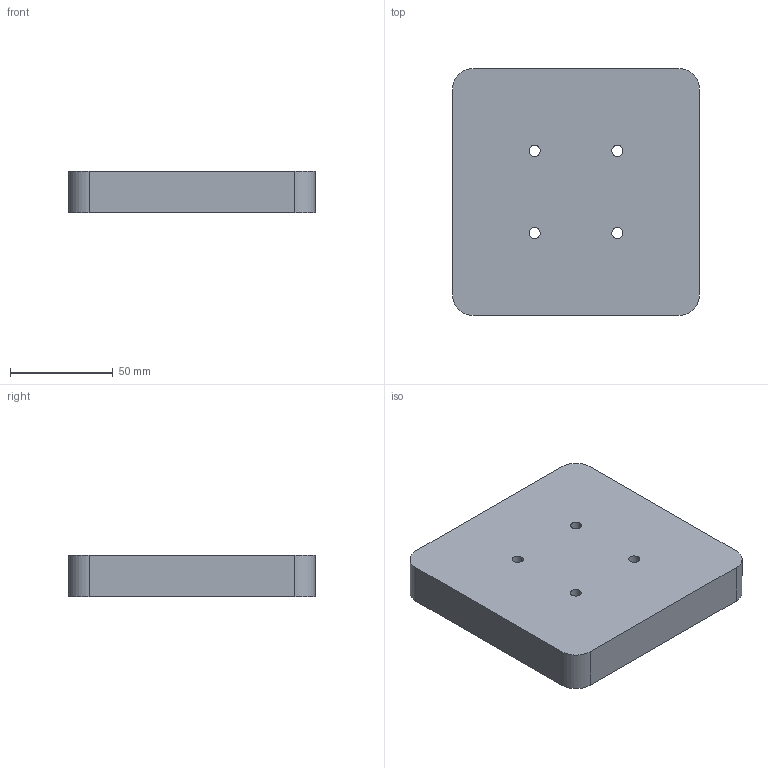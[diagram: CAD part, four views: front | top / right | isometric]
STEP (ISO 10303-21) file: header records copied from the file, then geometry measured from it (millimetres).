
FILE_DESCRIPTION (( 'STEP AP203' ), '1' );
FILE_NAME ('PlantCarriageTop.step', '2026-08-22T11:38:53', ( '' ), ( '' ), 'SwSTEP 2.0', 'SolidWorks 2026', '' );
FILE_SCHEMA (( 'CONFIG_CONTROL_DESIGN' ));
Length unit declared in the file: millimetre
Products named in the file (1): PlantCarriageTop
Bounding box: 120 x 120 x 20 mm (x, y, z)
Volume: 164335.3 mm3; surface area: 42839.9 mm2
Topology: 1 solids, 1 shells, 39 faces, 96 edges, 64 vertices
Faces by surface type: cylinder 24, plane 15
Entity records: 1271 total; most frequent: DIRECTION 224, CARTESIAN_POINT 200, ORIENTED_EDGE 192, EDGE_CURVE 96, AXIS2_PLACEMENT_3D 88, VERTEX_POINT 64, EDGE_LOOP 52, VECTOR 48
